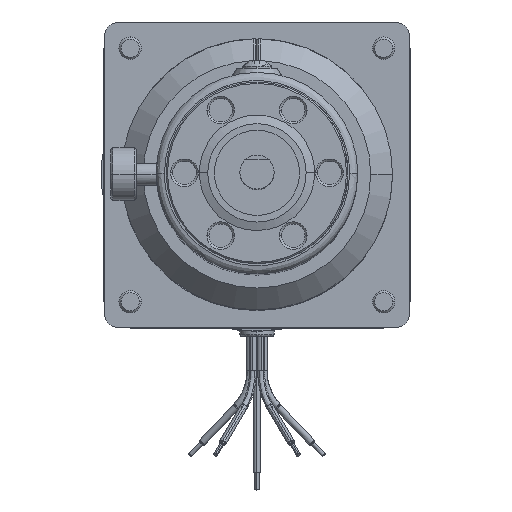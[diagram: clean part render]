
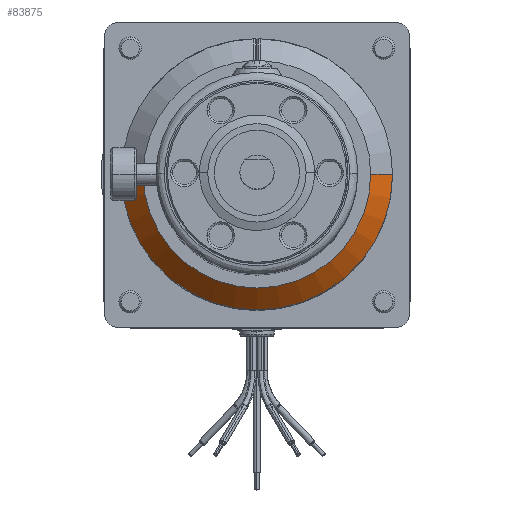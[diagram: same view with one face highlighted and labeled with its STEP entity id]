
A CAD part, top view. The second image highlights one B-rep face of the part: STEP entity #83875.
In plain terms, the highlighted conical face has half-angle 45 degrees and reference radius 25.209 mm.
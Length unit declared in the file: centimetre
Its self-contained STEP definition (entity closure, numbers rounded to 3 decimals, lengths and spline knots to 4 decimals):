
#1483 = EDGE_CURVE ( 'NONE', #71781, #71820, #65873, .T. ) ;
#1565 = EDGE_CURVE ( 'NONE', #71781, #71800, #65966, .T. ) ;
#1817 = EDGE_CURVE ( 'NONE', #71820, #71785, #66281, .T. ) ;
#1818 = EDGE_CURVE ( 'NONE', #71785, #71800, #66287, .T. ) ;
#6525 = DIRECTION ( 'NONE',  ( -1., 0., 0. ) ) ;
#6527 = DIRECTION ( 'NONE',  ( 0., 0., -1. ) ) ;
#6529 = CARTESIAN_POINT ( 'NONE',  ( 0., 0., -16.1569 ) ) ;
#17820 = CARTESIAN_POINT ( 'NONE',  ( 2.521, 0., -16.1569 ) ) ;
#17824 = DIRECTION ( 'NONE',  ( 0.707, 0., -0.707 ) ) ;
#18922 = EDGE_LOOP ( 'NONE', ( #31519, #22359, #30558, #33537 ) ) ;
#22359 = ORIENTED_EDGE ( 'NONE', *, *, #1483, .T. ) ;
#30558 = ORIENTED_EDGE ( 'NONE', *, *, #1817, .T. ) ;
#31150 = AXIS2_PLACEMENT_3D ( 'NONE', #60308, #60809, #60508 ) ;
#31519 = ORIENTED_EDGE ( 'NONE', *, *, #1565, .F. ) ;
#31550 = AXIS2_PLACEMENT_3D ( 'NONE', #61501, #61502, #61503 ) ;
#33537 = ORIENTED_EDGE ( 'NONE', *, *, #1818, .T. ) ;
#60308 = CARTESIAN_POINT ( 'NONE',  ( 0., 0., -15.7505 ) ) ;
#60508 = DIRECTION ( 'NONE',  ( -1., 0., 0. ) ) ;
#60809 = DIRECTION ( 'NONE',  ( 0., 0., -1. ) ) ;
#61497 = CARTESIAN_POINT ( 'NONE',  ( -2.521, 0., -16.1569 ) ) ;
#61498 = DIRECTION ( 'NONE',  ( -0.707, 0., -0.707 ) ) ;
#61501 = CARTESIAN_POINT ( 'NONE',  ( 0., 0., -16.1569 ) ) ;
#61502 = DIRECTION ( 'NONE',  ( 0., 0., 1. ) ) ;
#61503 = DIRECTION ( 'NONE',  ( 0., 1., 0. ) ) ;
#65873 = CIRCLE ( 'NONE', #31150, 2.1145 ) ;
#65966 = LINE ( 'NONE', #17820, #65971 ) ;
#65971 = VECTOR ( 'NONE', #17824, 100. ) ;
#66281 = LINE ( 'NONE', #61497, #66289 ) ;
#66287 = CIRCLE ( 'NONE', #31550, 2.521 ) ;
#66289 = VECTOR ( 'NONE', #61498, 100. ) ;
#66521 = AXIS2_PLACEMENT_3D ( 'NONE', #6529, #6527, #6525 ) ;
#69002 = CARTESIAN_POINT ( 'NONE',  ( 2.1145, 0., -15.7505 ) ) ;
#69004 = CARTESIAN_POINT ( 'NONE',  ( -2.521, 0., -16.1569 ) ) ;
#69011 = CARTESIAN_POINT ( 'NONE',  ( 2.521, 0., -16.1569 ) ) ;
#69020 = CARTESIAN_POINT ( 'NONE',  ( -2.1145, 0., -15.7505 ) ) ;
#71781 = VERTEX_POINT ( 'NONE', #69002 ) ;
#71785 = VERTEX_POINT ( 'NONE', #69004 ) ;
#71800 = VERTEX_POINT ( 'NONE', #69011 ) ;
#71820 = VERTEX_POINT ( 'NONE', #69020 ) ;
#74653 = FACE_OUTER_BOUND ( 'NONE', #18922, .T. ) ;
#74671 = CONICAL_SURFACE ( 'NONE', #66521, 2.521, 0.785 ) ;
#83875 = ADVANCED_FACE ( 'NONE', ( #74653 ), #74671, .T. ) ;
